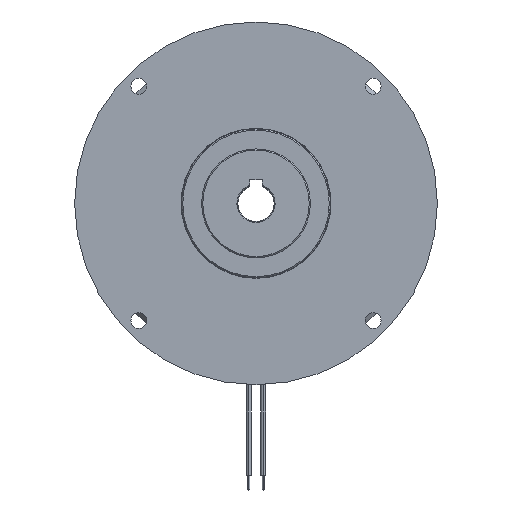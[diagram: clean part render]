
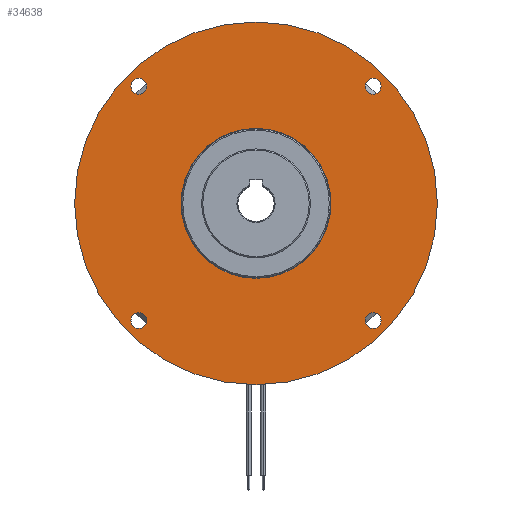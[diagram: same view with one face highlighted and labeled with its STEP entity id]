
A CAD part, top view. The second image highlights one B-rep face of the part: STEP entity #34638.
In plain terms, the highlighted planar face has unit normal (0, 0, 1).
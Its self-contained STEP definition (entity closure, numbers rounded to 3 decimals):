
#448 = EDGE_LOOP ( 'NONE', ( #88572, #70893 ) ) ;
#1857 = CARTESIAN_POINT ( 'NONE',  ( 48.437, 48.437, 0. ) ) ;
#2160 = CIRCLE ( 'NONE', #98501, 3.3 ) ;
#2961 = DIRECTION ( 'NONE',  ( 1., 0., 0. ) ) ;
#3918 = AXIS2_PLACEMENT_3D ( 'NONE', #103762, #9347, #86442 ) ;
#4688 = PLANE ( 'NONE',  #59025 ) ;
#6707 = CIRCLE ( 'NONE', #33491, 3.3 ) ;
#7196 = DIRECTION ( 'NONE',  ( 1., 0., 0. ) ) ;
#9347 = DIRECTION ( 'NONE',  ( 0., 0., 1. ) ) ;
#10000 = CARTESIAN_POINT ( 'NONE',  ( -48.437, -48.437, 0. ) ) ;
#10408 = ORIENTED_EDGE ( 'NONE', *, *, #44051, .F. ) ;
#11540 = ORIENTED_EDGE ( 'NONE', *, *, #82134, .F. ) ;
#11630 = DIRECTION ( 'NONE',  ( 1., 0., 0. ) ) ;
#12472 = VERTEX_POINT ( 'NONE', #92343 ) ;
#12813 = CIRCLE ( 'NONE', #3918, 75. ) ;
#13053 = VERTEX_POINT ( 'NONE', #14944 ) ;
#13580 = DIRECTION ( 'NONE',  ( -1., 0., 0. ) ) ;
#14054 = AXIS2_PLACEMENT_3D ( 'NONE', #15010, #49142, #7196 ) ;
#14944 = CARTESIAN_POINT ( 'NONE',  ( 51.737, 48.437, 0. ) ) ;
#15010 = CARTESIAN_POINT ( 'NONE',  ( -48.437, 48.437, 0. ) ) ;
#16385 = EDGE_CURVE ( 'NONE', #61208, #68154, #46875, .T. ) ;
#16943 = DIRECTION ( 'NONE',  ( 0., 0., 1. ) ) ;
#17704 = EDGE_CURVE ( 'NONE', #80242, #39604, #98773, .T. ) ;
#19695 = DIRECTION ( 'NONE',  ( 0., 0., 1. ) ) ;
#21029 = CIRCLE ( 'NONE', #60295, 75. ) ;
#21789 = CARTESIAN_POINT ( 'NONE',  ( 75., 0., 0. ) ) ;
#24842 = DIRECTION ( 'NONE',  ( 1., 0., 0. ) ) ;
#27536 = DIRECTION ( 'NONE',  ( 1., 0., 0. ) ) ;
#28235 = VERTEX_POINT ( 'NONE', #43265 ) ;
#29316 = CARTESIAN_POINT ( 'NONE',  ( 48.437, 48.437, 0. ) ) ;
#29813 = FACE_BOUND ( 'NONE', #448, .T. ) ;
#30696 = AXIS2_PLACEMENT_3D ( 'NONE', #46440, #107845, #40266 ) ;
#30979 = AXIS2_PLACEMENT_3D ( 'NONE', #87733, #63179, #36924 ) ;
#31006 = CARTESIAN_POINT ( 'NONE',  ( -48.437, -48.437, 0. ) ) ;
#31641 = EDGE_CURVE ( 'NONE', #37554, #12472, #104257, .T. ) ;
#32583 = AXIS2_PLACEMENT_3D ( 'NONE', #108621, #16943, #67273 ) ;
#33491 = AXIS2_PLACEMENT_3D ( 'NONE', #1857, #19695, #27536 ) ;
#34638 = ADVANCED_FACE ( 'NONE', ( #81194, #72284, #45458, #106343, #29813, #63924 ), #4688, .F. ) ;
#34658 = ORIENTED_EDGE ( 'NONE', *, *, #31641, .F. ) ;
#35652 = CARTESIAN_POINT ( 'NONE',  ( -45.137, 48.437, 0. ) ) ;
#36751 = CARTESIAN_POINT ( 'NONE',  ( -51.737, -48.437, 0. ) ) ;
#36924 = DIRECTION ( 'NONE',  ( 1., 0., 0. ) ) ;
#37554 = VERTEX_POINT ( 'NONE', #35652 ) ;
#39482 = ORIENTED_EDGE ( 'NONE', *, *, #68317, .F. ) ;
#39604 = VERTEX_POINT ( 'NONE', #81164 ) ;
#39999 = AXIS2_PLACEMENT_3D ( 'NONE', #59018, #85271, #68500 ) ;
#40261 = AXIS2_PLACEMENT_3D ( 'NONE', #31006, #74602, #24842 ) ;
#40266 = DIRECTION ( 'NONE',  ( 1., 0., 0. ) ) ;
#42275 = CARTESIAN_POINT ( 'NONE',  ( 45.137, -48.437, 0. ) ) ;
#43265 = CARTESIAN_POINT ( 'NONE',  ( -45.137, -48.437, 0. ) ) ;
#44051 = EDGE_CURVE ( 'NONE', #13053, #83575, #6707, .T. ) ;
#44107 = DIRECTION ( 'NONE',  ( 0., 0., 1. ) ) ;
#45458 = FACE_BOUND ( 'NONE', #73815, .T. ) ;
#46440 = CARTESIAN_POINT ( 'NONE',  ( 48.437, -48.437, 0. ) ) ;
#46875 = CIRCLE ( 'NONE', #32583, 3.3 ) ;
#47548 = CIRCLE ( 'NONE', #85005, 31. ) ;
#48139 = CARTESIAN_POINT ( 'NONE',  ( 45.137, 48.437, 0. ) ) ;
#49142 = DIRECTION ( 'NONE',  ( 0., 0., 1. ) ) ;
#49906 = CARTESIAN_POINT ( 'NONE',  ( 0., 31., 0. ) ) ;
#52589 = EDGE_CURVE ( 'NONE', #12472, #37554, #89053, .T. ) ;
#53216 = EDGE_CURVE ( 'NONE', #83575, #13053, #69431, .T. ) ;
#54714 = ORIENTED_EDGE ( 'NONE', *, *, #52589, .F. ) ;
#56712 = ORIENTED_EDGE ( 'NONE', *, *, #53216, .F. ) ;
#58638 = CARTESIAN_POINT ( 'NONE',  ( 51.737, -48.437, 0. ) ) ;
#59018 = CARTESIAN_POINT ( 'NONE',  ( -48.437, 48.437, 0. ) ) ;
#59025 = AXIS2_PLACEMENT_3D ( 'NONE', #49906, #90143, #13580 ) ;
#59163 = DIRECTION ( 'NONE',  ( 1., 0., 0. ) ) ;
#60295 = AXIS2_PLACEMENT_3D ( 'NONE', #65933, #83231, #59163 ) ;
#60766 = CARTESIAN_POINT ( 'NONE',  ( -75., 0., 0. ) ) ;
#61208 = VERTEX_POINT ( 'NONE', #42275 ) ;
#61300 = ORIENTED_EDGE ( 'NONE', *, *, #16385, .F. ) ;
#63179 = DIRECTION ( 'NONE',  ( 0., 0., 1. ) ) ;
#63439 = DIRECTION ( 'NONE',  ( 1., 0., 0. ) ) ;
#63876 = CARTESIAN_POINT ( 'NONE',  ( 0., 0., 0. ) ) ;
#63924 = FACE_OUTER_BOUND ( 'NONE', #66337, .T. ) ;
#65075 = EDGE_CURVE ( 'NONE', #39604, #80242, #47548, .T. ) ;
#65933 = CARTESIAN_POINT ( 'NONE',  ( 0., 0., 0. ) ) ;
#66337 = EDGE_LOOP ( 'NONE', ( #106080, #85818 ) ) ;
#67273 = DIRECTION ( 'NONE',  ( 1., 0., 0. ) ) ;
#68154 = VERTEX_POINT ( 'NONE', #58638 ) ;
#68317 = EDGE_CURVE ( 'NONE', #100090, #28235, #83077, .T. ) ;
#68500 = DIRECTION ( 'NONE',  ( 1., 0., 0. ) ) ;
#69431 = CIRCLE ( 'NONE', #83698, 3.3 ) ;
#70014 = CIRCLE ( 'NONE', #30696, 3.3 ) ;
#70893 = ORIENTED_EDGE ( 'NONE', *, *, #65075, .F. ) ;
#72284 = FACE_BOUND ( 'NONE', #108457, .T. ) ;
#73815 = EDGE_LOOP ( 'NONE', ( #76667, #61300 ) ) ;
#74602 = DIRECTION ( 'NONE',  ( 0., 0., 1. ) ) ;
#76667 = ORIENTED_EDGE ( 'NONE', *, *, #89642, .F. ) ;
#80242 = VERTEX_POINT ( 'NONE', #107473 ) ;
#81164 = CARTESIAN_POINT ( 'NONE',  ( -31., 0., 0. ) ) ;
#81194 = FACE_BOUND ( 'NONE', #106839, .T. ) ;
#82134 = EDGE_CURVE ( 'NONE', #28235, #100090, #2160, .T. ) ;
#83077 = CIRCLE ( 'NONE', #40261, 3.3 ) ;
#83231 = DIRECTION ( 'NONE',  ( 0., 0., 1. ) ) ;
#83575 = VERTEX_POINT ( 'NONE', #48139 ) ;
#83698 = AXIS2_PLACEMENT_3D ( 'NONE', #29316, #86907, #63439 ) ;
#85005 = AXIS2_PLACEMENT_3D ( 'NONE', #63876, #97912, #2961 ) ;
#85271 = DIRECTION ( 'NONE',  ( 0., 0., 1. ) ) ;
#85818 = ORIENTED_EDGE ( 'NONE', *, *, #100980, .T. ) ;
#86442 = DIRECTION ( 'NONE',  ( 1., 0., 0. ) ) ;
#86907 = DIRECTION ( 'NONE',  ( 0., 0., 1. ) ) ;
#87214 = EDGE_CURVE ( 'NONE', #93901, #96122, #12813, .T. ) ;
#87733 = CARTESIAN_POINT ( 'NONE',  ( 0., 0., 0. ) ) ;
#88572 = ORIENTED_EDGE ( 'NONE', *, *, #17704, .F. ) ;
#89053 = CIRCLE ( 'NONE', #14054, 3.3 ) ;
#89642 = EDGE_CURVE ( 'NONE', #68154, #61208, #70014, .T. ) ;
#90143 = DIRECTION ( 'NONE',  ( 0., 0., -1. ) ) ;
#92343 = CARTESIAN_POINT ( 'NONE',  ( -51.737, 48.437, 0. ) ) ;
#92384 = EDGE_LOOP ( 'NONE', ( #10408, #56712 ) ) ;
#93901 = VERTEX_POINT ( 'NONE', #21789 ) ;
#96122 = VERTEX_POINT ( 'NONE', #60766 ) ;
#97912 = DIRECTION ( 'NONE',  ( 0., 0., 1. ) ) ;
#98501 = AXIS2_PLACEMENT_3D ( 'NONE', #10000, #44107, #11630 ) ;
#98773 = CIRCLE ( 'NONE', #30979, 31. ) ;
#100090 = VERTEX_POINT ( 'NONE', #36751 ) ;
#100980 = EDGE_CURVE ( 'NONE', #96122, #93901, #21029, .T. ) ;
#103762 = CARTESIAN_POINT ( 'NONE',  ( 0., 0., 0. ) ) ;
#104257 = CIRCLE ( 'NONE', #39999, 3.3 ) ;
#106080 = ORIENTED_EDGE ( 'NONE', *, *, #87214, .T. ) ;
#106343 = FACE_BOUND ( 'NONE', #92384, .T. ) ;
#106839 = EDGE_LOOP ( 'NONE', ( #34658, #54714 ) ) ;
#107473 = CARTESIAN_POINT ( 'NONE',  ( 31., 0., 0. ) ) ;
#107845 = DIRECTION ( 'NONE',  ( 0., 0., 1. ) ) ;
#108457 = EDGE_LOOP ( 'NONE', ( #11540, #39482 ) ) ;
#108621 = CARTESIAN_POINT ( 'NONE',  ( 48.437, -48.437, 0. ) ) ;
